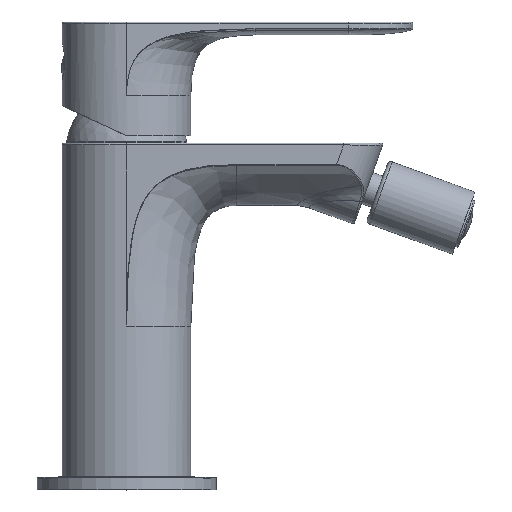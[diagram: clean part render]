
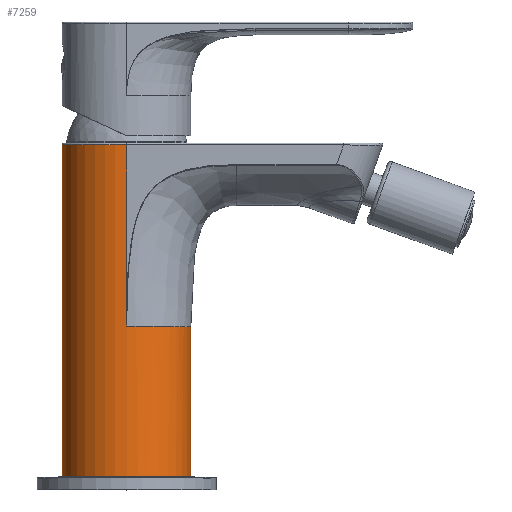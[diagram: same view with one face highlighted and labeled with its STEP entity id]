
A CAD part, top view. The second image highlights one B-rep face of the part: STEP entity #7259.
In plain terms, the highlighted cylindrical face has radius 17.5 mm (diameter 35 mm), a partial arc.
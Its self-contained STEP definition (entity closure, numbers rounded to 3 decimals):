
#1=CARTESIAN_POINT('',(0.,2.,0.));
#2=DIRECTION('',(0.,1.,0.));
#3=DIRECTION('',(-1.,0.,0.));
#4=AXIS2_PLACEMENT_3D('',#1,#2,#3);
#6=CARTESIAN_POINT('',(0.,92.5,0.));
#7=DIRECTION('',(0.,-1.,0.));
#8=DIRECTION('',(0.,0.,1.));
#9=AXIS2_PLACEMENT_3D('',#6,#7,#8);
#82=DIRECTION('',(0.,-1.,0.));
#83=VECTOR('',#82,41.);
#84=CARTESIAN_POINT('',(17.5,43.,0.));
#85=LINE('',#84,#83);
#91=DIRECTION('',(0.,-1.,0.));
#92=VECTOR('',#91,48.793);
#93=CARTESIAN_POINT('',(-17.5,92.5,0.));
#94=LINE('',#93,#92);
#95=CARTESIAN_POINT('',(-17.348,43.761,-2.303));
#96=CARTESIAN_POINT('',(-17.382,43.749,-2.048));
#97=CARTESIAN_POINT('',(-17.438,43.729,-1.538));
#98=CARTESIAN_POINT('',(-17.489,43.711,-0.769));
#99=CARTESIAN_POINT('',(-17.5,43.707,-0.256));
#100=CARTESIAN_POINT('',(-17.5,43.707,0.));
#102=CARTESIAN_POINT('',(-16.883,41.296,-4.605));
#103=CARTESIAN_POINT('',(-16.884,41.509,-4.604));
#104=CARTESIAN_POINT('',(-16.895,41.916,-4.562));
#105=CARTESIAN_POINT('',(-16.946,42.48,-4.372));
#106=CARTESIAN_POINT('',(-17.018,42.952,-4.082));
#107=CARTESIAN_POINT('',(-17.104,43.327,-3.709));
#108=CARTESIAN_POINT('',(-17.193,43.592,-3.277));
#109=CARTESIAN_POINT('',(-17.278,43.746,-2.794));
#110=CARTESIAN_POINT('',(-17.326,43.769,-2.469));
#111=CARTESIAN_POINT('',(-17.348,43.761,-2.303));
#113=DIRECTION('',(0.,1.,0.));
#114=VECTOR('',#113,16.831);
#115=CARTESIAN_POINT('',(-16.883,24.465,-4.605));
#116=LINE('',#115,#114);
#117=CARTESIAN_POINT('',(-17.403,16.493,-1.842));
#118=CARTESIAN_POINT('',(-17.393,16.461,-1.931));
#119=CARTESIAN_POINT('',(-17.373,16.424,-2.109));
#120=CARTESIAN_POINT('',(-17.337,16.448,-2.389));
#121=CARTESIAN_POINT('',(-17.298,16.558,-2.658));
#122=CARTESIAN_POINT('',(-17.254,16.759,-2.928));
#123=CARTESIAN_POINT('',(-17.21,17.038,-3.176));
#124=CARTESIAN_POINT('',(-17.166,17.386,-3.405));
#125=CARTESIAN_POINT('',(-17.123,17.797,-3.613));
#126=CARTESIAN_POINT('',(-17.082,18.269,-3.802));
#127=CARTESIAN_POINT('',(-17.043,18.801,-3.974));
#128=CARTESIAN_POINT('',(-17.007,19.395,-4.127));
#129=CARTESIAN_POINT('',(-16.973,20.053,-4.262));
#130=CARTESIAN_POINT('',(-16.944,20.778,-4.379));
#131=CARTESIAN_POINT('',(-16.919,21.575,-4.474));
#132=CARTESIAN_POINT('',(-16.899,22.449,-4.547));
#133=CARTESIAN_POINT('',(-16.886,23.404,-4.594));
#134=CARTESIAN_POINT('',(-16.883,24.102,-4.605));
#135=CARTESIAN_POINT('',(-16.883,24.465,-4.605));
#137=CARTESIAN_POINT('',(-17.5,16.818,0.));
#138=CARTESIAN_POINT('',(-17.5,16.819,-0.196));
#139=CARTESIAN_POINT('',(-17.493,16.796,-0.595));
#140=CARTESIAN_POINT('',(-17.461,16.69,-1.216));
#141=CARTESIAN_POINT('',(-17.425,16.567,-1.632));
#142=CARTESIAN_POINT('',(-17.403,16.493,-1.842));
#144=DIRECTION('',(0.,-1.,0.));
#145=VECTOR('',#144,14.818);
#146=CARTESIAN_POINT('',(-17.5,16.818,0.));
#147=LINE('',#146,#145);
#205=CARTESIAN_POINT('',(17.5,43.,0.));
#619=CARTESIAN_POINT('',(0.,43.498,17.5));
#621=DIRECTION('',(0.,1.,0.));
#622=VECTOR('',#621,49.002);
#623=CARTESIAN_POINT('',(0.,43.498,17.5));
#624=LINE('',#623,#622);
#3471=CARTESIAN_POINT('',(0.,43.,0.));
#3472=DIRECTION('',(0.,1.,0.));
#3473=DIRECTION('',(0.995,0.,0.098));
#3474=AXIS2_PLACEMENT_3D('',#3471,#3472,#3473);
#3476=CARTESIAN_POINT('',(0.,43.,0.));
#3477=DIRECTION('',(0.,1.,0.));
#3478=DIRECTION('',(0.99,0.,0.144));
#3479=AXIS2_PLACEMENT_3D('',#3476,#3477,#3478);
#3481=CARTESIAN_POINT('',(0.,43.,0.));
#3482=DIRECTION('',(0.,1.,0.));
#3483=DIRECTION('',(0.981,0.,0.195));
#3484=AXIS2_PLACEMENT_3D('',#3481,#3482,#3483);
#3486=CARTESIAN_POINT('',(0.,43.,0.));
#3487=DIRECTION('',(0.,1.,0.));
#3488=DIRECTION('',(0.814,0.,0.581));
#3489=AXIS2_PLACEMENT_3D('',#3486,#3487,#3488);
#3491=CARTESIAN_POINT('',(0.,43.,0.));
#3492=DIRECTION('',(0.,1.,0.));
#3493=DIRECTION('',(0.772,0.,0.636));
#3494=AXIS2_PLACEMENT_3D('',#3491,#3492,#3493);
#3496=CARTESIAN_POINT('',(0.,43.,0.));
#3497=DIRECTION('',(0.,1.,0.));
#3498=DIRECTION('',(0.,0.,1.));
#3499=AXIS2_PLACEMENT_3D('',#3496,#3497,#3498);
#3501=CARTESIAN_POINT('',(0.,43.,17.5));
#3502=CARTESIAN_POINT('',(0.,43.167,17.5));
#3503=CARTESIAN_POINT('',(0.,43.333,
17.5));
#3504=CARTESIAN_POINT('',(0.,43.498,17.5));
#6148=CARTESIAN_POINT('',(13.51,43.,11.123));
#6149=CARTESIAN_POINT('',(14.243,43.,10.168));
#6150=VERTEX_POINT('',#6148);
#6151=VERTEX_POINT('',#6149);
#6152=CARTESIAN_POINT('',(17.164,43.,3.414));
#6153=VERTEX_POINT('',#6152);
#6154=CARTESIAN_POINT('',(17.316,43.,2.528));
#6155=VERTEX_POINT('',#6154);
#6156=CARTESIAN_POINT('',(17.416,43.,1.715));
#6157=VERTEX_POINT('',#6156);
#6158=CARTESIAN_POINT('',(0.,43.,17.5));
#6159=VERTEX_POINT('',#6158);
#6172=VERTEX_POINT('',#205);
#6179=VERTEX_POINT('',#619);
#6202=CARTESIAN_POINT('',(-17.5,92.5,0.));
#6204=VERTEX_POINT('',#6202);
#6220=CARTESIAN_POINT('',(0.,92.5,17.5));
#6221=VERTEX_POINT('',#6220);
#6244=VERTEX_POINT('',#102);
#6245=VERTEX_POINT('',#111);
#6246=CARTESIAN_POINT('',(-16.883,24.465,
-4.605));
#6247=VERTEX_POINT('',#6246);
#6248=VERTEX_POINT('',#117);
#6249=VERTEX_POINT('',#137);
#6250=VERTEX_POINT('',#100);
#6937=CARTESIAN_POINT('',(-17.5,2.,0.));
#6938=CARTESIAN_POINT('',(17.5,2.,0.));
#6939=VERTEX_POINT('',#6937);
#6940=VERTEX_POINT('',#6938);
#7216=CARTESIAN_POINT('',(0.,-2.15,0.));
#7217=DIRECTION('',(0.,1.,0.));
#7218=DIRECTION('',(1.,0.,0.));
#7219=AXIS2_PLACEMENT_3D('',#7216,#7217,#7218);
#7220=CYLINDRICAL_SURFACE('',#7219,17.5);
#7222=ORIENTED_EDGE('',*,*,#7221,.F.);
#7224=ORIENTED_EDGE('',*,*,#7223,.F.);
#7226=ORIENTED_EDGE('',*,*,#7225,.T.);
#7228=ORIENTED_EDGE('',*,*,#7227,.T.);
#7230=ORIENTED_EDGE('',*,*,#7229,.T.);
#7232=ORIENTED_EDGE('',*,*,#7231,.T.);
#7234=ORIENTED_EDGE('',*,*,#7233,.T.);
#7236=ORIENTED_EDGE('',*,*,#7235,.F.);
#7238=ORIENTED_EDGE('',*,*,#7237,.F.);
#7240=ORIENTED_EDGE('',*,*,#7239,.F.);
#7242=ORIENTED_EDGE('',*,*,#7241,.F.);
#7244=ORIENTED_EDGE('',*,*,#7243,.T.);
#7246=ORIENTED_EDGE('',*,*,#7245,.T.);
#7248=ORIENTED_EDGE('',*,*,#7247,.T.);
#7250=ORIENTED_EDGE('',*,*,#7249,.T.);
#7252=ORIENTED_EDGE('',*,*,#7251,.T.);
#7254=ORIENTED_EDGE('',*,*,#7253,.T.);
#7256=ORIENTED_EDGE('',*,*,#7255,.T.);
#7257=EDGE_LOOP('',(#7222,#7224,#7226,#7228,#7230,#7232,#7234,#7236,#7238,#7240,
#7242,#7244,#7246,#7248,#7250,#7252,#7254,#7256));
#7258=FACE_OUTER_BOUND('',#7257,.F.);
#7259=ADVANCED_FACE('',(#7258),#7220,.T.);
#5=CIRCLE('',#4,17.5);
#10=CIRCLE('',#9,17.5);
#101=B_SPLINE_CURVE_WITH_KNOTS('',3,(#95,#96,#97,#98,#99,#100),.UNSPECIFIED.,
.F.,.F.,(4,1,1,4),(0.,0.333,0.667,1.),
.UNSPECIFIED.);
#112=B_SPLINE_CURVE_WITH_KNOTS('',3,(#102,#103,#104,#105,#106,#107,#108,#109,
#110,#111),.UNSPECIFIED.,.F.,.F.,(4,1,1,1,1,1,1,4),(0.,0.143,
0.286,0.429,0.571,0.714,
0.857,1.),.UNSPECIFIED.);
#136=B_SPLINE_CURVE_WITH_KNOTS('',3,(#117,#118,#119,#120,#121,#122,#123,#124,
#125,#126,#127,#128,#129,#130,#131,#132,#133,#134,#135),.UNSPECIFIED.,.F.,.F.,
(4,1,1,1,1,1,1,1,1,1,1,1,1,1,1,1,4),(0.,0.063,0.125,0.188,0.25,
0.313,0.375,0.438,0.5,0.563,0.625,0.688,0.75,0.813,
0.875,0.938,1.),.UNSPECIFIED.);
#143=B_SPLINE_CURVE_WITH_KNOTS('',3,(#137,#138,#139,#140,#141,#142),
.UNSPECIFIED.,.F.,.F.,(4,1,1,4),(0.,0.333,0.667,1.),
.UNSPECIFIED.);
#3475=CIRCLE('',#3474,17.5);
#3480=CIRCLE('',#3479,17.5);
#3485=CIRCLE('',#3484,17.5);
#3490=CIRCLE('',#3489,17.5);
#3495=CIRCLE('',#3494,17.5);
#3500=CIRCLE('',#3499,17.5);
#3505=B_SPLINE_CURVE_WITH_KNOTS('',3,(#3501,#3502,#3503,#3504),.UNSPECIFIED.,
.F.,.F.,(4,4),(0.,1.),.UNSPECIFIED.);
#7221=EDGE_CURVE('',#6939,#6940,#5,.T.);
#7223=EDGE_CURVE('',#6249,#6939,#147,.T.);
#7225=EDGE_CURVE('',#6249,#6248,#143,.T.);
#7227=EDGE_CURVE('',#6248,#6247,#136,.T.);
#7229=EDGE_CURVE('',#6247,#6244,#116,.T.);
#7231=EDGE_CURVE('',#6244,#6245,#112,.T.);
#7233=EDGE_CURVE('',#6245,#6250,#101,.T.);
#7235=EDGE_CURVE('',#6204,#6250,#94,.T.);
#7237=EDGE_CURVE('',#6221,#6204,#10,.T.);
#7239=EDGE_CURVE('',#6179,#6221,#624,.T.);
#7241=EDGE_CURVE('',#6159,#6179,#3505,.T.);
#7243=EDGE_CURVE('',#6159,#6150,#3500,.T.);
#7245=EDGE_CURVE('',#6150,#6151,#3495,.T.);
#7247=EDGE_CURVE('',#6151,#6153,#3490,.T.);
#7249=EDGE_CURVE('',#6153,#6155,#3485,.T.);
#7251=EDGE_CURVE('',#6155,#6157,#3480,.T.);
#7253=EDGE_CURVE('',#6157,#6172,#3475,.T.);
#7255=EDGE_CURVE('',#6172,#6940,#85,.T.);
